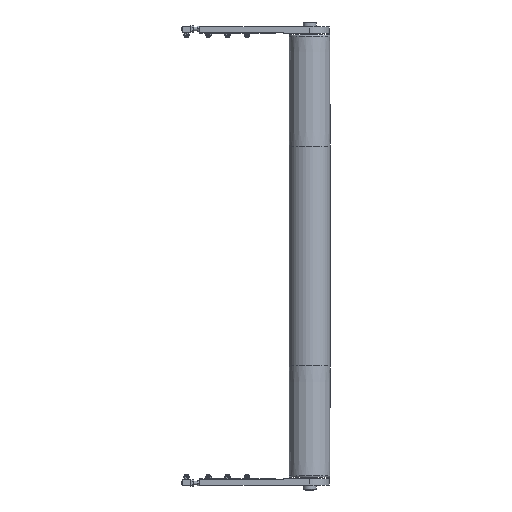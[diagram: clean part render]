
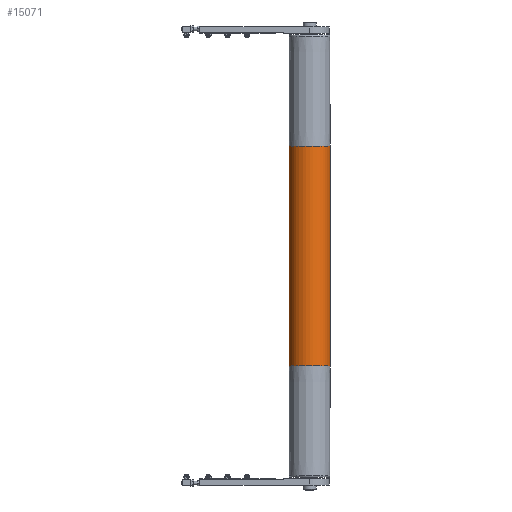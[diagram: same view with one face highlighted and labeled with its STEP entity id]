
A CAD part, front view. The second image highlights one B-rep face of the part: STEP entity #15071.
In plain terms, the highlighted cylindrical face has radius 47.5 mm (diameter 95 mm), a partial arc.
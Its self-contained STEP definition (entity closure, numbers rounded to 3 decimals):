
#431 = CIRCLE ( 'NONE', #8774, 47.5 ) ;
#460 = LINE ( 'NONE', #13801, #463 ) ;
#463 = VECTOR ( 'NONE', #13802, 1000. ) ;
#1473 = EDGE_LOOP ( 'NONE', ( #16685, #16686, #16687, #16688 ) ) ;
#2177 = FACE_OUTER_BOUND ( 'NONE', #1473, .T. ) ;
#2182 = CYLINDRICAL_SURFACE ( 'NONE', #8984, 47.5 ) ;
#3627 = EDGE_CURVE ( 'NONE', #22174, #22170, #9864, .T. ) ;
#3788 = EDGE_CURVE ( 'NONE', #22172, #22174, #10098, .T. ) ;
#5527 = EDGE_CURVE ( 'NONE', #22172, #22171, #431, .T. ) ;
#5546 = EDGE_CURVE ( 'NONE', #22171, #22170, #460, .T. ) ;
#7299 = DIRECTION ( 'NONE',  ( -1., 0., 0. ) ) ;
#7303 = DIRECTION ( 'NONE',  ( 0., 0., -1. ) ) ;
#7304 = CARTESIAN_POINT ( 'NONE',  ( 0., 0., 510. ) ) ;
#8508 = AXIS2_PLACEMENT_3D ( 'NONE', #13310, #13311, #13312 ) ;
#8774 = AXIS2_PLACEMENT_3D ( 'NONE', #13754, #13755, #13756 ) ;
#8984 = AXIS2_PLACEMENT_3D ( 'NONE', #7304, #7303, #7299 ) ;
#9421 = CARTESIAN_POINT ( 'NONE',  ( -47.5, 0., 510. ) ) ;
#9422 = DIRECTION ( 'NONE',  ( 0., 0., -1. ) ) ;
#9864 = CIRCLE ( 'NONE', #8508, 47.5 ) ;
#10098 = LINE ( 'NONE', #9421, #10100 ) ;
#10100 = VECTOR ( 'NONE', #9422, 1000. ) ;
#13310 = CARTESIAN_POINT ( 'NONE',  ( 0., 0., -255. ) ) ;
#13311 = DIRECTION ( 'NONE',  ( 0., 0., 1. ) ) ;
#13312 = DIRECTION ( 'NONE',  ( 1., 0., 0. ) ) ;
#13754 = CARTESIAN_POINT ( 'NONE',  ( 0., 0., 255. ) ) ;
#13755 = DIRECTION ( 'NONE',  ( 0., 0., 1. ) ) ;
#13756 = DIRECTION ( 'NONE',  ( 1., 0., 0. ) ) ;
#13801 = CARTESIAN_POINT ( 'NONE',  ( 47.5, 0., 510. ) ) ;
#13802 = DIRECTION ( 'NONE',  ( 0., 0., -1. ) ) ;
#15071 = ADVANCED_FACE ( 'NONE', ( #2177 ), #2182, .T. ) ;
#16159 = CARTESIAN_POINT ( 'NONE',  ( 47.5, 0., -255. ) ) ;
#16160 = CARTESIAN_POINT ( 'NONE',  ( 47.5, 0., 255. ) ) ;
#16161 = CARTESIAN_POINT ( 'NONE',  ( -47.5, 0., 255. ) ) ;
#16163 = CARTESIAN_POINT ( 'NONE',  ( -47.5, 0., -255. ) ) ;
#16685 = ORIENTED_EDGE ( 'NONE', *, *, #5546, .F. ) ;
#16686 = ORIENTED_EDGE ( 'NONE', *, *, #5527, .F. ) ;
#16687 = ORIENTED_EDGE ( 'NONE', *, *, #3788, .T. ) ;
#16688 = ORIENTED_EDGE ( 'NONE', *, *, #3627, .T. ) ;
#22170 = VERTEX_POINT ( 'NONE', #16159 ) ;
#22171 = VERTEX_POINT ( 'NONE', #16160 ) ;
#22172 = VERTEX_POINT ( 'NONE', #16161 ) ;
#22174 = VERTEX_POINT ( 'NONE', #16163 ) ;
